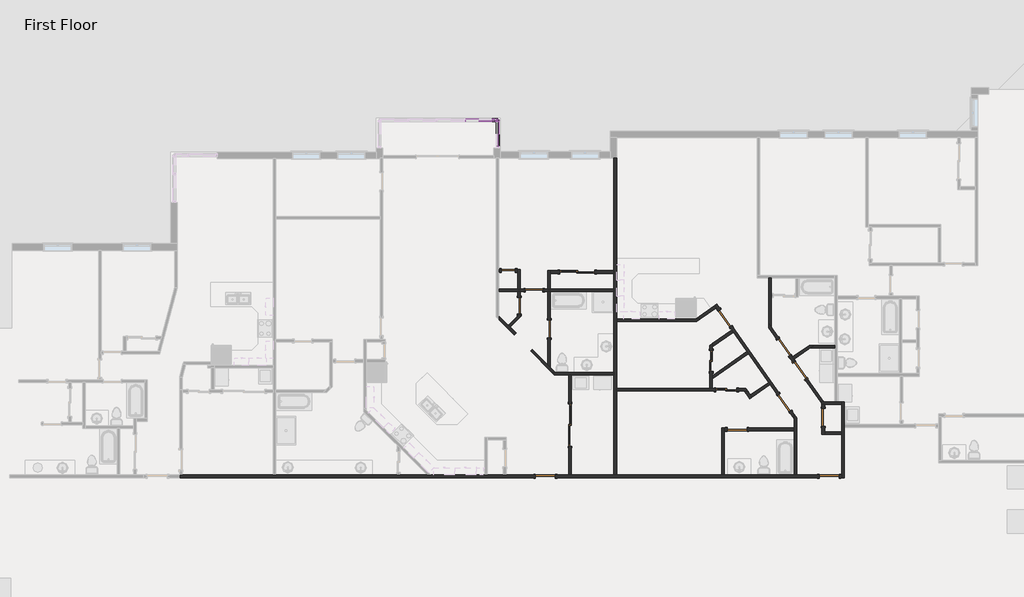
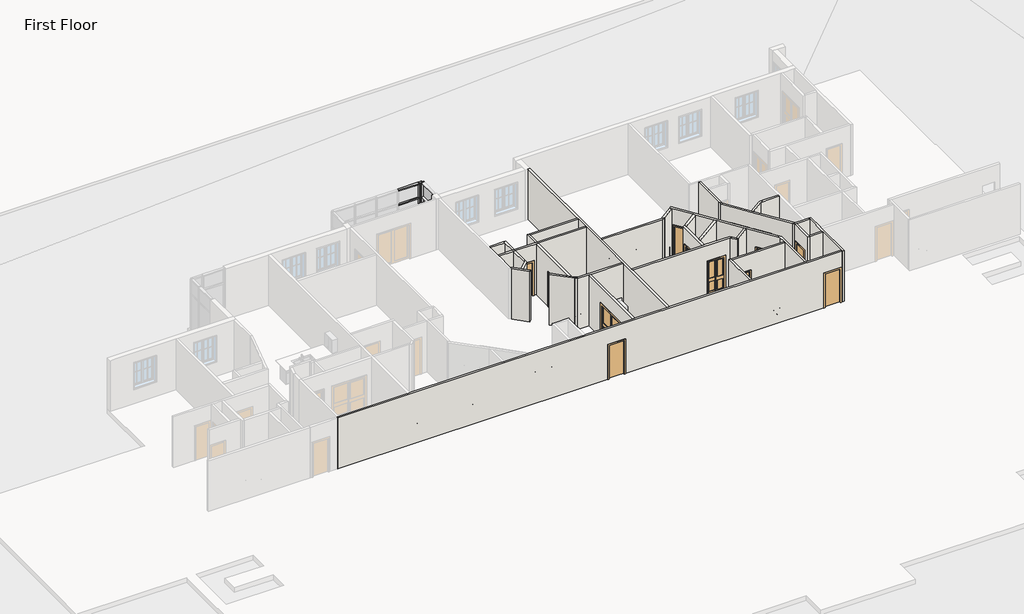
# One storey, part 10 of 17: 34 walls, 16 doors, 12 members, 2 plates.
"""IFC4 building model written with IfcOpenShell, lengths in millimetres."""

from ifc_helpers import new_model, si_unit, frame, origin, origin_with_axes, place, context, project, spatial, polyline, outline, extrude, faceted_brep, transform, mapped, element, save
from components import door_e2285e44, door_f2586ccf, door_d8f5dbb5, door_f2b275c1, door_825b8444, door_c29894e6, door_88c23cd7, door_2e7ec8be, door_caaf2a11, rectangular_mullion_rectangular_mullion_1_fa3625a1, rectangular_mullion_rectangular_mullion_1_a50b3cda, rectangular_mullion_rectangular_mullion_1_5cd4c5ac, rectangular_mullion_rectangular_mullion_1_7cbf0b94, rectangular_mullion_rectangular_mullion_1_6186cc23, rectangular_mullion_rectangular_mullion_1_049a2e78, rectangular_mullion_rectangular_mullion_1_273a15f2, rectangular_mullion_rectangular_mullion_1_e7cd13e6, rectangular_mullion_rectangular_mullion_1_4b421c8f, system_panel_glazed_53e3ec8b, system_panel_glazed_bdec29fe

model = new_model("IFC4")

# Units and contexts
model_context = context("Model", 3, world=origin())
ifc_project = project(units=[si_unit("LENGTHUNIT", "METRE", prefix="MILLI")], contexts=[model_context])

# Site, building, storey
site = spatial("IfcSite", under=ifc_project)
building = spatial("IfcBuilding", under=site)
storey = spatial("IfcBuildingStorey", under=building, Name="First Floor", Elevation=0.0)

# Doors
placement = place(None, origin())
door_shape = door_e2285e44(model_context)
element("IfcDoor", 1, ObjectType="Single-Flush : 24\" x 80\"", at=placement, inside=storey, context=model_context, shape_type="MappedRepresentation", body=[
    mapped(door_shape, transform((32134.1490863, 11206.8738431, 0.0), x_axis=(-1.0, 0.0, 0.0), y_axis=(0.0, -1.0, 0.0), z_axis=(0.0, 0.0, 1.0))),
])
door_2_shape = door_f2586ccf(model_context)
element("IfcDoor", 2, ObjectType="Single-Flush : 28\" x 80\"", at=placement, inside=storey, context=model_context, shape_type="MappedRepresentation", body=[
    mapped(door_2_shape, transform((32600.8503506, 9684.7566317, 0.0), x_axis=(0.0, -1.0, 0.0), y_axis=(1.0, 0.0, 0.0), z_axis=(0.0, 0.0, 1.0))),
])
door_3_shape = door_d8f5dbb5(model_context)
element("IfcDoor", 3, ObjectType="Single-Flush : 30\" x 80\"", at=placement, inside=storey, context=model_context, shape_type="MappedRepresentation", body=[
    mapped(door_3_shape, transform((45750.4941402, 4857.5393477, 0.0), x_axis=(0.0, 1.0, 0.0), y_axis=(-1.0, 0.0, 0.0), z_axis=(0.0, 0.0, 1.0))),
])
door_4_shape = door_f2b275c1(model_context)
element("IfcDoor", 4, ObjectType="Single-Flush : 30\" x 80\"", at=placement, inside=storey, context=model_context, shape_type="MappedRepresentation", body=[
    mapped(door_4_shape, transform((33248.5503506, 10357.9910099, 0.0), x_axis=(-1.0, 0.0, 0.0), y_axis=(0.0, -1.0, 0.0), z_axis=(0.0, 0.0, 1.0))),
])
element("IfcDoor", 5, ObjectType="Single-Flush : 30\" x 80\"", at=placement, inside=storey, context=model_context, shape_type="MappedRepresentation", body=[
    mapped(door_4_shape, transform((33896.2503506, 8681.5910099, 0.0), x_axis=(0.0, 1.0, 0.0), y_axis=(-1.0, 0.0, 0.0), z_axis=(0.0, 0.0, 1.0))),
])
door_5_shape = door_825b8444(model_context)
element("IfcDoor", 6, ObjectType="Single-Flush : 34\" x 80\"", at=placement, inside=storey, context=model_context, shape_type="MappedRepresentation", body=[
    mapped(door_5_shape, transform((44075.379577, 5485.5706082, 0.0), x_axis=(0.5735764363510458, -0.8191520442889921, 0.0), y_axis=(0.8191520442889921, 0.5735764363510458, 0.0), z_axis=(0.0, 0.0, 1.0))),
])
element("IfcDoor", 7, ObjectType="Single-Flush : 34\" x 80\"", at=placement, inside=storey, context=model_context, shape_type="MappedRepresentation", body=[
    mapped(door_5_shape, transform((44748.5781815, 6887.1795824, 0.0), x_axis=(-0.5735764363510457, 0.819152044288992, 0.0), y_axis=(-0.819152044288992, -0.5735764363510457, 0.0), z_axis=(0.0, 0.0, 1.0))),
])
door_6_shape = door_c29894e6(model_context)
element("IfcDoor", 8, ObjectType="Single-Flush : 34\" x 80\"", at=placement, inside=storey, context=model_context, shape_type="MappedRepresentation", body=[
    mapped(door_6_shape, transform((46002.0126872, 2302.2091714, 0.0), x_axis=(1.0, 0.0, 0.0), y_axis=(0.0, 1.0, 0.0), z_axis=(0.0, 0.0, 1.0))),
])
element("IfcDoor", 9, ObjectType="Single-Flush : 34\" x 80\"", at=placement, inside=storey, context=model_context, shape_type="MappedRepresentation", body=[
    mapped(door_6_shape, transform((42028.0852525, 4334.2091714, 0.0), x_axis=(-1.0, 0.0, 0.0), y_axis=(0.0, -1.0, 0.0), z_axis=(0.0, 0.0, 1.0))),
])
element("IfcDoor", 10, ObjectType="Single-Flush : 34\" x 80\"", at=placement, inside=storey, context=model_context, shape_type="MappedRepresentation", body=[
    mapped(door_6_shape, transform((41510.2711658, 9148.9250727, 0.0), x_axis=(-0.5735764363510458, 0.8191520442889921, 0.0), y_axis=(-0.8191520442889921, -0.5735764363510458, 0.0), z_axis=(0.0, 0.0, 1.0))),
])
element("IfcDoor", 11, ObjectType="Single-Flush : 34\" x 80\"", at=placement, inside=storey, context=model_context, shape_type="MappedRepresentation", body=[
    mapped(door_6_shape, transform((44049.2737903, 7885.8897548, 0.0), x_axis=(0.5735764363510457, -0.819152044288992, 0.0), y_axis=(0.819152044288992, 0.5735764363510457, 0.0), z_axis=(0.0, 0.0, 1.0))),
])
element("IfcDoor", 12, ObjectType="Single-Flush : 34\" x 80\"", at=placement, inside=storey, context=model_context, shape_type="MappedRepresentation", body=[
    mapped(door_6_shape, transform((33733.8246645, 2302.2091714, 0.0), x_axis=(1.0, 0.0, 0.0), y_axis=(0.0, 1.0, 0.0), z_axis=(0.0, 0.0, 1.0))),
])
door_7_shape = door_88c23cd7(model_context)
element("IfcDoor", 13, ObjectType="Sliding-Closet : 36\" x 80\"", at=placement, inside=storey, context=model_context, shape_type="MappedRepresentation", body=[
    mapped(door_7_shape, transform((41029.9347694, 7292.860079, 0.0), x_axis=(0.0, 1.0, 0.0), y_axis=(-1.0, 0.0, 0.0), z_axis=(0.0, 0.0, 1.0))),
])
element("IfcDoor", 14, ObjectType="Sliding-Closet : 36\" x 80\"", at=placement, inside=storey, context=model_context, shape_type="MappedRepresentation", body=[
    mapped(door_7_shape, transform((41563.3347694, 5921.260079, 0.0), x_axis=(1.0, 0.0, 0.0), y_axis=(0.0, 1.0, 0.0), z_axis=(0.0, 0.0, 1.0))),
])
door_8_shape = door_2e7ec8be(model_context)
element("IfcDoor", 15, ObjectType="Sliding-Closet : 60\" x 80\"", at=placement, inside=storey, context=model_context, shape_type="MappedRepresentation", body=[
    mapped(door_8_shape, transform((35115.4503506, 11022.7238431, 0.0), x_axis=(1.0, 0.0, 0.0), y_axis=(0.0, 1.0, 0.0), z_axis=(0.0, 0.0, 1.0))),
])
door_9_shape = door_caaf2a11(model_context)
element("IfcDoor", 16, ObjectType="Sliding-Closet : 72\" x 80\"", at=placement, inside=storey, context=model_context, shape_type="MappedRepresentation", body=[
    mapped(door_9_shape, transform((34927.6246645, 4525.6075569, 0.0), x_axis=(0.0, 1.0, 0.0), y_axis=(-1.0, 0.0, 0.0), z_axis=(0.0, 0.0, 1.0))),
])

# Members
rectangular_mullion_rectangular_mullion_1_shape = rectangular_mullion_rectangular_mullion_1_fa3625a1(model_context)
element("IfcMember", 17, ObjectType="Rectangular Mullion : Rectangular Mullion 1", at=placement, inside=storey, context=model_context, shape_type="MappedRepresentation", body=[
    mapped(rectangular_mullion_rectangular_mullion_1_shape, transform((31438.5198574, 17730.4791823, 3048.0), x_axis=(0.0, 0.0, 1.0), y_axis=(0.0, -1.0, 0.0), z_axis=(1.0, 0.0, 0.0))),
])
rectangular_mullion_rectangular_mullion_1_2_shape = rectangular_mullion_rectangular_mullion_1_a50b3cda(model_context)
element("IfcMember", 18, ObjectType="Rectangular Mullion : Rectangular Mullion 1", at=placement, inside=storey, context=model_context, shape_type="MappedRepresentation", body=[
    mapped(rectangular_mullion_rectangular_mullion_1_2_shape, transform((31667.447822, 17730.4791823, 0.0), x_axis=(1.0, 0.0, 0.0), y_axis=(0.0, -1.0, 0.0), z_axis=(0.0, 0.0, -1.0))),
])
rectangular_mullion_rectangular_mullion_1_3_shape = rectangular_mullion_rectangular_mullion_1_5cd4c5ac(model_context)
element("IfcMember", 19, ObjectType="Rectangular Mullion : Rectangular Mullion 1", at=placement, inside=storey, context=model_context, shape_type="MappedRepresentation", body=[
    mapped(rectangular_mullion_rectangular_mullion_1_3_shape, transform((31667.447822, 17730.4791823, 2165.35), x_axis=(1.0, 0.0, 0.0), y_axis=(0.0, -1.0, 0.0), z_axis=(0.0, 0.0, -1.0))),
])
element("IfcMember", 20, ObjectType="Rectangular Mullion : Rectangular Mullion 1", at=placement, inside=storey, context=model_context, shape_type="MappedRepresentation", body=[
    mapped(rectangular_mullion_rectangular_mullion_1_3_shape, transform((31667.447822, 17730.4791823, 3048.0), x_axis=(0.0, 1.0, 0.0), y_axis=(-1.0, 0.0, 0.0), z_axis=(0.0, 0.0, 1.0))),
])
element("IfcMember", 21, ObjectType="Rectangular Mullion : Rectangular Mullion 1", at=placement, inside=storey, context=model_context, shape_type="MappedRepresentation", body=[
    mapped(rectangular_mullion_rectangular_mullion_1_2_shape, transform((31667.447822, 17730.4791823, 2165.35), x_axis=(0.0, 1.0, 0.0), y_axis=(-1.0, 0.0, 0.0), z_axis=(0.0, 0.0, 1.0))),
])
rectangular_mullion_rectangular_mullion_1_4_shape = rectangular_mullion_rectangular_mullion_1_7cbf0b94(model_context)
element("IfcMember", 22, ObjectType="Rectangular Mullion : Rectangular Mullion 1", at=placement, inside=storey, context=model_context, shape_type="MappedRepresentation", body=[
    mapped(rectangular_mullion_rectangular_mullion_1_4_shape, transform((31438.5198574, 17730.4791823, 2165.35), x_axis=(0.0, 0.0, 1.0), y_axis=(0.0, -1.0, 0.0), z_axis=(1.0, 0.0, 0.0))),
])
rectangular_mullion_rectangular_mullion_1_5_shape = rectangular_mullion_rectangular_mullion_1_6186cc23(model_context)
element("IfcMember", 23, ObjectType="Rectangular Mullion : Rectangular Mullion 1", at=placement, inside=storey, context=model_context, shape_type="MappedRepresentation", body=[
    mapped(rectangular_mullion_rectangular_mullion_1_5_shape, transform((31470.2698574, 17730.4791823, 0.0), x_axis=(1.0, 0.0, 0.0), y_axis=(0.0, -1.0, 0.0), z_axis=(0.0, 0.0, -1.0))),
])
rectangular_mullion_rectangular_mullion_1_6_shape = rectangular_mullion_rectangular_mullion_1_049a2e78(model_context)
element("IfcMember", 24, ObjectType="Rectangular Mullion : Rectangular Mullion 1", at=placement, inside=storey, context=model_context, shape_type="MappedRepresentation", body=[
    mapped(rectangular_mullion_rectangular_mullion_1_6_shape, transform((31470.2698574, 17730.4791823, 2165.35), x_axis=(1.0, 0.0, 0.0), y_axis=(0.0, -1.0, 0.0), z_axis=(0.0, 0.0, -1.0))),
])
rectangular_mullion_rectangular_mullion_1_7_shape = rectangular_mullion_rectangular_mullion_1_273a15f2(model_context)
element("IfcMember", 25, ObjectType="Rectangular Mullion : Rectangular Mullion 1", at=placement, inside=storey, context=model_context, shape_type="MappedRepresentation", body=[
    mapped(rectangular_mullion_rectangular_mullion_1_7_shape, transform((31667.447822, 17666.9791823, 0.0), x_axis=(0.0, 0.0, -1.0), y_axis=(-1.0, 0.0, 0.0), z_axis=(0.0, 1.0, 0.0))),
])
rectangular_mullion_rectangular_mullion_1_8_shape = rectangular_mullion_rectangular_mullion_1_e7cd13e6(model_context)
element("IfcMember", 26, ObjectType="Rectangular Mullion : Rectangular Mullion 1", at=placement, inside=storey, context=model_context, shape_type="MappedRepresentation", body=[
    mapped(rectangular_mullion_rectangular_mullion_1_8_shape, transform((31603.947822, 17730.4791823, 3048.0), x_axis=(0.0, 0.0, 1.0), y_axis=(0.0, -1.0, 0.0), z_axis=(1.0, 0.0, 0.0))),
])
element("IfcMember", 27, ObjectType="Rectangular Mullion : Rectangular Mullion 1", at=placement, inside=storey, context=model_context, shape_type="MappedRepresentation", body=[
    mapped(rectangular_mullion_rectangular_mullion_1_8_shape, transform((31502.0198574, 17730.4791823, 0.0), x_axis=(0.0, 0.0, -1.0), y_axis=(0.0, -1.0, 0.0), z_axis=(-1.0, 0.0, 0.0))),
])
rectangular_mullion_rectangular_mullion_1_9_shape = rectangular_mullion_rectangular_mullion_1_4b421c8f(model_context)
element("IfcMember", 28, ObjectType="Rectangular Mullion : Rectangular Mullion 1", at=placement, inside=storey, context=model_context, shape_type="MappedRepresentation", body=[
    mapped(rectangular_mullion_rectangular_mullion_1_9_shape, transform((31603.947822, 17730.4791823, 2165.35), x_axis=(0.0, 0.0, 1.0), y_axis=(0.0, -1.0, 0.0), z_axis=(1.0, 0.0, 0.0))),
])

# Plates
system_panel_glazed_shape = system_panel_glazed_53e3ec8b(model_context)
element("IfcPlate", 29, ObjectType="System Panel : Glazed", at=placement, inside=storey, context=model_context, shape_type="MappedRepresentation", body=[
    mapped(system_panel_glazed_shape, transform((31667.447822, 17120.8791823, 63.5), x_axis=(0.0, -1.0, 0.0), y_axis=(1.0, 0.0, 0.0), z_axis=(0.0, 0.0, 1.0))),
])
system_panel_glazed_2_shape = system_panel_glazed_bdec29fe(model_context)
element("IfcPlate", 30, ObjectType="System Panel : Glazed", at=placement, inside=storey, context=model_context, shape_type="MappedRepresentation", body=[
    mapped(system_panel_glazed_2_shape, transform((31667.447822, 17120.8791823, 2197.1), x_axis=(0.0, -1.0, 0.0), y_axis=(1.0, 0.0, 0.0), z_axis=(0.0, 0.0, 1.0))),
])

# Walls
element("IfcWall", 31, ObjectType="Interior - 4 1/2\" Partition", at=placement, inside=storey, context=model_context, shape_type="Brep", body=[
    faceted_brep([(46668.7626872, 2245.0591714, 0.0), (46668.7626872, 4430.1886142, 0.0), (46668.7626872, 4544.4886142, 0.0), (46668.7626872, 5524.2893477, 0.0), (46668.7626872, 5524.2893477, 3048.0), (46668.7626872, 4544.4886142, 3048.0), (46668.7626872, 4430.1886142, 3048.0), (46668.7626872, 2245.0591714, 3048.0), (46554.4626872, 2245.0591714, 0.0), (46554.4626872, 2245.0591714, 3048.0), (46554.4626872, 2359.3591714, 3048.0), (46554.4626872, 4124.6591714, 3048.0), (46554.4626872, 4238.9591714, 3048.0), (46554.4626872, 5409.9893477, 3048.0), (46554.4626872, 5524.2893477, 3048.0), (46554.4626872, 5524.2893477, 0.0), (46554.4626872, 5409.9893477, 0.0), (46554.4626872, 4238.9591714, 0.0), (46554.4626872, 4124.6591714, 0.0), (46554.4626872, 2359.3591714, 0.0)], [[[0, 1, 2, 3, 4, 5, 6, 7]], [[8, 9, 10, 11, 12, 13, 14, 15, 16, 17, 18, 19]], [[3, 2, 1, 0, 8, 19, 18, 17, 16, 15]], [[7, 6, 5, 4, 14, 13, 12, 11, 10, 9]], [[0, 7, 9, 8]], [[4, 3, 15, 14]]]),
])
element("IfcWall", 32, ObjectType="Interior - 4 1/2\" Partition", at=placement, inside=storey, context=model_context, shape_type="Brep", body=[
    faceted_brep([(46554.4626872, 5524.2893477, 0.0), (46352.4352525, 5524.2893477, 0.0), (46238.1352525, 5524.2893477, 0.0), (45772.6514653, 5524.2893477, 0.0), (45633.1169298, 5524.2893477, 0.0), (45633.1169298, 5524.2893477, 3048.0), (45772.6514653, 5524.2893477, 3048.0), (46238.1352525, 5524.2893477, 3048.0), (46352.4352525, 5524.2893477, 3048.0), (46554.4626872, 5524.2893477, 3048.0), (46554.4626872, 5409.9893477, 0.0), (46554.4626872, 5409.9893477, 3048.0), (45807.6441402, 5409.9893477, 3048.0), (45713.1506514, 5409.9893477, 3048.0), (45713.1506514, 5409.9893477, 0.0), (45807.6441402, 5409.9893477, 0.0), (45693.3441402, 5438.2759773, 0.0), (45693.3441402, 5438.2759773, 3048.0)], [[[0, 1, 2, 3, 4, 5, 6, 7, 8, 9]], [[10, 11, 12, 13, 14, 15]], [[4, 3, 2, 1, 0, 10, 15, 14, 16]], [[9, 8, 7, 6, 5, 17, 13, 12, 11]], [[5, 4, 16, 14, 13, 17]], [[0, 9, 11, 10]]]),
])
element("IfcWall", 33, ObjectType="Interior - 4 1/2\" Partition", at=placement, inside=storey, context=model_context, shape_type="Brep", body=[
    faceted_brep([(45570.2126872, 2359.3591714, 0.0), (44606.2949591, 2359.3591714, 0.0), (44491.9949591, 2359.3591714, 0.0), (41475.6352525, 2359.3591714, 0.0), (41361.3352525, 2359.3591714, 0.0), (36816.4178001, 2359.3591714, 0.0), (36702.1178001, 2359.3591714, 0.0), (34857.7746645, 2359.3591714, 0.0), (34743.4746645, 2359.3591714, 0.0), (34165.6246645, 2359.3591714, 0.0), (34165.6246645, 2359.3591714, 2032.0), (33302.0246645, 2359.3591714, 2032.0), (33302.0246645, 2359.3591714, 0.0), (32034.1576897, 2359.3591714, 0.0), (31919.8576897, 2359.3591714, 0.0), (31221.3576897, 2359.3591714, 0.0), (31107.0576897, 2359.3591714, 0.0), (28783.4392197, 2359.3591714, 0.0), (28621.7946095, 2359.3591714, 0.0), (27441.30388, 2359.3591714, 0.0), (27327.00388, 2359.3591714, 0.0), (22080.2073571, 2359.3591714, 0.0), (21965.9073571, 2359.3591714, 0.0), (18027.8493195, 2359.3591714, 0.0), (17913.5493195, 2359.3591714, 0.0), (17913.5493195, 2359.3591714, 3048.0), (18027.8493195, 2359.3591714, 3048.0), (21965.9073571, 2359.3591714, 3048.0), (22080.2073571, 2359.3591714, 3048.0), (27327.00388, 2359.3591714, 3048.0), (27441.30388, 2359.3591714, 3048.0), (28621.7946095, 2359.3591714, 3048.0), (28783.4392197, 2359.3591714, 3048.0), (31107.0576897, 2359.3591714, 3048.0), (31221.3576897, 2359.3591714, 3048.0), (31919.8576897, 2359.3591714, 3048.0), (32034.1576897, 2359.3591714, 3048.0), (34743.4746645, 2359.3591714, 3048.0), (34857.7746645, 2359.3591714, 3048.0), (36702.1178001, 2359.3591714, 3048.0), (36816.4178001, 2359.3591714, 3048.0), (41361.3352525, 2359.3591714, 3048.0), (41475.6352525, 2359.3591714, 3048.0), (44491.9949591, 2359.3591714, 3048.0), (44606.2949591, 2359.3591714, 3048.0), (46554.4626872, 2359.3591714, 3048.0), (46554.4626872, 2359.3591714, 0.0), (46433.8126872, 2359.3591714, 0.0), (46433.8126872, 2359.3591714, 2032.0), (45570.2126872, 2359.3591714, 2032.0), (34165.6246645, 2245.0591714, 2032.0), (34165.6246645, 2245.0591714, 0.0), (45570.2126872, 2245.0591714, 0.0), (45570.2126872, 2245.0591714, 2032.0), (46433.8126872, 2245.0591714, 2032.0), (46433.8126872, 2245.0591714, 0.0), (46554.4626872, 2245.0591714, 0.0), (46554.4626872, 2245.0591714, 3048.0), (17913.5493195, 2245.0591714, 3048.0), (17913.5493195, 2245.0591714, 0.0), (33302.0246645, 2245.0591714, 0.0), (33302.0246645, 2245.0591714, 2032.0)], [[[0, 1, 2, 3, 4, 5, 6, 7, 8, 9, 10, 11, 12, 13, 14, 15, 16, 17, 18, 19, 20, 21, 22, 23, 24, 25, 26, 27, 28, 29, 30, 31, 32, 33, 34, 35, 36, 37, 38, 39, 40, 41, 42, 43, 44, 45, 46, 47, 48, 49]], [[50, 51, 52, 53, 54, 55, 56, 57, 58, 59, 60, 61]], [[56, 55, 47, 46]], [[60, 59, 24, 23, 22, 21, 20, 19, 18, 17, 16, 15, 14, 13, 12]], [[52, 51, 9, 8, 7, 6, 5, 4, 3, 2, 1, 0]], [[45, 44, 43, 42, 41, 40, 39, 38, 37, 36, 35, 34, 33, 32, 31, 30, 29, 28, 27, 26, 25, 58, 57]], [[48, 47, 55, 54]], [[49, 48, 54, 53]], [[0, 49, 53, 52]], [[10, 9, 51, 50]], [[11, 10, 50, 61]], [[12, 11, 61, 60]], [[25, 24, 59, 58]], [[46, 45, 57, 56]]]),
])
element("IfcWall", 34, ObjectType="Interior - 4 1/2\" Partition", at=placement, inside=storey, context=model_context, shape_type="Brep", body=[
    faceted_brep([(36816.4178001, 2359.3591714, 0.0), (36816.4178001, 5991.110079, 0.0), (36816.4178001, 6105.410079, 0.0), (36816.4178001, 9005.4410099, 0.0), (36816.4178001, 9119.7410099, 0.0), (36816.4178001, 16077.0865339, 0.0), (36816.4178001, 16077.0865339, 3048.0), (36816.4178001, 9119.7410099, 3048.0), (36816.4178001, 9005.4410099, 3048.0), (36816.4178001, 6105.410079, 3048.0), (36816.4178001, 5991.110079, 3048.0), (36816.4178001, 2359.3591714, 3048.0), (36702.1178001, 2359.3591714, 0.0), (36702.1178001, 2359.3591714, 3048.0), (36702.1178001, 6691.8559423, 3048.0), (36702.1178001, 6806.1559423, 3048.0), (36702.1178001, 10300.8410099, 3048.0), (36702.1178001, 10415.1410099, 3048.0), (36702.1178001, 11092.5738431, 3048.0), (36702.1178001, 11206.8738431, 3048.0), (36702.1178001, 16077.0865339, 3048.0), (36702.1178001, 16077.0865339, 0.0), (36702.1178001, 11206.8738431, 0.0), (36702.1178001, 11092.5738431, 0.0), (36702.1178001, 10415.1410099, 0.0), (36702.1178001, 10300.8410099, 0.0), (36702.1178001, 6806.1559423, 0.0), (36702.1178001, 6691.8559423, 0.0)], [[[0, 1, 2, 3, 4, 5, 6, 7, 8, 9, 10, 11]], [[12, 13, 14, 15, 16, 17, 18, 19, 20, 21, 22, 23, 24, 25, 26, 27]], [[5, 4, 3, 2, 1, 0, 12, 27, 26, 25, 24, 23, 22, 21]], [[11, 10, 9, 8, 7, 6, 20, 19, 18, 17, 16, 15, 14, 13]], [[0, 11, 13, 12]], [[6, 5, 21, 20]]]),
])
element("IfcWall", 35, ObjectType="Interior - 4 1/2\" Partition", at=placement, inside=storey, context=model_context, shape_type="Brep", body=[
    faceted_brep([(41475.6352525, 2359.3591714, 0.0), (41475.6352525, 4277.0591714, 0.0), (41475.6352525, 4391.3591714, 0.0), (41475.6352525, 4391.3591714, 3048.0), (41475.6352525, 4277.0591714, 3048.0), (41475.6352525, 2359.3591714, 3048.0), (41361.3352525, 2359.3591714, 0.0), (41361.3352525, 2359.3591714, 3048.0), (41361.3352525, 4391.3591714, 3048.0), (41361.3352525, 4391.3591714, 0.0)], [[[0, 1, 2, 3, 4, 5]], [[6, 7, 8, 9]], [[2, 1, 0, 6, 9]], [[5, 4, 3, 8, 7]], [[3, 2, 9, 8]], [[0, 5, 7, 6]]]),
])
element("IfcWall", 36, ObjectType="Interior - 4 1/2\" Partition", at=placement, inside=storey, context=model_context, shape_type="SweptSolid", body=[
    extrude(outline(polyline([(0.0, 41475.6352525), (0.0, 41596.2852525), (2032.0, 41596.2852525), (2032.0, 42459.8852525), (0.0, 42459.8852525), (0.0, 44491.9949591), (3048.0, 44491.9949591), (3048.0, 41475.6352525), (0.0, 41475.6352525)])), frame((0.0, 4277.0591714, 0.0), z_axis=(0.0, 1.0, 0.0), x_axis=(0.0, 0.0, 1.0)), (0.0, 0.0, 1.0), 114.3),
])
element("IfcWall", 37, ObjectType="Interior - 4 1/2\" Partition", at=placement, inside=storey, context=model_context, shape_type="Brep", body=[
    faceted_brep([(44491.9949591, 4990.220165, 0.0), (44491.9949591, 4790.9441963, 0.0), (44491.9949591, 4391.3591714, 0.0), (44491.9949591, 4277.0591714, 0.0), (44491.9949591, 2359.3591714, 0.0), (44491.9949591, 2359.3591714, 3048.0), (44491.9949591, 4277.0591714, 3048.0), (44491.9949591, 4391.3591714, 3048.0), (44491.9949591, 4790.9441963, 3048.0), (44491.9949591, 4990.220165, 3048.0), (44606.2949591, 4826.9828478, 0.0), (44606.2949591, 4826.9828478, 3048.0), (44606.2949591, 2359.3591714, 3048.0), (44606.2949591, 2359.3591714, 0.0)], [[[0, 1, 2, 3, 4, 5, 6, 7, 8, 9]], [[10, 11, 12, 13]], [[4, 3, 2, 1, 0, 10, 13]], [[9, 8, 7, 6, 5, 12, 11]], [[0, 9, 11, 10]], [[5, 4, 13, 12]]]),
])
element("IfcWall", 38, ObjectType="Interior - 4 1/2\" Partition", at=placement, inside=storey, context=model_context, shape_type="Brep", body=[
    faceted_brep([(42020.5347694, 5991.110079, 2032.0), (42020.5347694, 5991.110079, 0.0), (42342.9173932, 5991.110079, 0.0), (42482.4519287, 5991.110079, 0.0), (42482.4519287, 5991.110079, 3048.0), (42342.9173932, 5991.110079, 3048.0), (36816.4178001, 5991.110079, 3048.0), (36816.4178001, 5991.110079, 0.0), (41106.1347694, 5991.110079, 0.0), (41106.1347694, 5991.110079, 2032.0), (42402.4182071, 6105.410079, 0.0), (42020.5347694, 6105.410079, 0.0), (42020.5347694, 6105.410079, 2032.0), (41106.1347694, 6105.410079, 2032.0), (41106.1347694, 6105.410079, 0.0), (40960.0847694, 6105.410079, 0.0), (40845.7847694, 6105.410079, 0.0), (36816.4178001, 6105.410079, 0.0), (36816.4178001, 6105.410079, 3048.0), (40845.7847694, 6105.410079, 3048.0), (40960.0847694, 6105.410079, 3048.0), (42402.4182071, 6105.410079, 3048.0)], [[[0, 1, 2, 3, 4, 5, 6, 7, 8, 9]], [[10, 11, 12, 13, 14, 15, 16, 17, 18, 19, 20, 21]], [[8, 7, 17, 16, 15, 14]], [[3, 2, 1, 11, 10]], [[6, 5, 4, 21, 20, 19, 18]], [[14, 13, 9, 8]], [[12, 11, 1, 0]], [[13, 12, 0, 9]], [[4, 3, 10, 21]], [[7, 6, 18, 17]]]),
])
element("IfcWall", 39, ObjectType="Interior - 4 1/2\" Partition", at=placement, inside=storey, context=model_context, shape_type="Brep", body=[
    faceted_brep([(42342.9173932, 5991.110079, 0.0), (42571.294409, 5664.953899, 0.0), (42571.294409, 5664.953899, 3048.0), (42342.9173932, 5991.110079, 3048.0), (42482.4519287, 5991.110079, 0.0), (42482.4519287, 5991.110079, 3048.0), (42599.363701, 5824.1427644, 3048.0), (42664.9234877, 5730.5136857, 3048.0), (42664.9234877, 5730.5136857, 0.0), (42599.363701, 5824.1427644, 0.0)], [[[0, 1, 2, 3]], [[4, 5, 6, 7, 8, 9]], [[1, 0, 4, 9, 8]], [[3, 2, 7, 6, 5]], [[2, 1, 8, 7]], [[0, 3, 5, 4]]]),
])
element("IfcWall", 40, ObjectType="Interior - 4 1/2\" Partition", at=placement, inside=storey, context=model_context, shape_type="SweptSolid", body=[
    extrude(outline(polyline([(43449.4535887, 6279.8475763), (42664.9234877, 5730.5136857), (42599.363701, 5824.1427644), (43383.893802, 6373.476655), (43449.4535887, 6279.8475763)])), origin_with_axes(), (0.0, 0.0, 1.0), 3048.0),
])
element("IfcWall", 41, ObjectType="Interior - 4 1/2\" Partition", at=placement, inside=storey, context=model_context, shape_type="Brep", body=[
    faceted_brep([(41309.4153999, 9535.4148188, 2032.0), (41309.4153999, 9535.4148188, 0.0), (41154.070698, 9757.2700452, 0.0), (41154.070698, 9757.2700452, 3048.0), (44491.9949591, 4990.220165, 3048.0), (44491.9949591, 4990.220165, 0.0), (44369.8644215, 5164.6406488, 0.0), (44369.8644215, 5164.6406488, 2032.0), (43874.5238111, 5872.0603542, 2032.0), (43874.5238111, 5872.0603542, 0.0), (41804.7560103, 8827.9951134, 0.0), (41804.7560103, 8827.9951134, 2032.0), (41060.4416193, 9691.7102585, 0.0), (41126.001406, 9598.0811798, 0.0), (41215.7863212, 9469.8550321, 0.0), (41215.7863212, 9469.8550321, 2032.0), (41711.1269316, 8762.4353267, 2032.0), (41711.1269316, 8762.4353267, 0.0), (41800.9118469, 8634.209179, 0.0), (41866.4716335, 8540.5801003, 0.0), (42452.1089123, 7704.203388, 0.0), (42517.668699, 7610.5743093, 0.0), (43383.893802, 6373.476655, 0.0), (43449.4535887, 6279.8475763, 0.0), (43780.8947324, 5806.5005676, 0.0), (43780.8947324, 5806.5005676, 2032.0), (44276.2353429, 5099.0808621, 2032.0), (44276.2353429, 5099.0808621, 0.0), (44491.9949591, 4790.9441963, 0.0), (44491.9949591, 4790.9441963, 3048.0), (43449.4535887, 6279.8475763, 3048.0), (43383.893802, 6373.476655, 3048.0), (42517.668699, 7610.5743093, 3048.0), (42452.1089123, 7704.203388, 3048.0), (41866.4716335, 8540.5801003, 3048.0), (41800.9118469, 8634.209179, 3048.0), (41126.001406, 9598.0811798, 3048.0), (41060.4416193, 9691.7102585, 3048.0)], [[[0, 1, 2, 3, 4, 5, 6, 7, 8, 9, 10, 11]], [[12, 13, 14, 15, 16, 17, 18, 19, 20, 21, 22, 23, 24, 25, 26, 27, 28, 29, 30, 31, 32, 33, 34, 35, 36, 37]], [[28, 27, 6, 5]], [[10, 9, 24, 23, 22, 21, 20, 19, 18, 17]], [[2, 1, 14, 13, 12]], [[4, 3, 37, 36, 35, 34, 33, 32, 31, 30, 29]], [[7, 6, 27, 26]], [[8, 7, 26, 25]], [[9, 8, 25, 24]], [[15, 14, 1, 0]], [[16, 15, 0, 11]], [[17, 16, 11, 10]], [[3, 2, 12, 37]], [[5, 4, 29, 28]]]),
])
element("IfcWall", 42, ObjectType="Interior - 4 1/2\" Partition", at=placement, inside=storey, context=model_context, shape_type="SweptSolid", body=[
    extrude(outline(polyline([(40960.0847694, 6659.476836), (42452.1089123, 7704.203388), (42517.668699, 7610.5743093), (40960.0847694, 6519.9423005), (40960.0847694, 6659.476836)])), origin_with_axes(), (0.0, 0.0, 1.0), 3048.0),
])
element("IfcWall", 43, ObjectType="Interior - 4 1/2\" Partition", at=placement, inside=storey, context=model_context, shape_type="Brep", body=[
    faceted_brep([(40960.0847694, 7750.060079, 2032.0), (40960.0847694, 7750.060079, 0.0), (40960.0847694, 7905.9211855, 0.0), (40960.0847694, 8045.455721, 0.0), (40960.0847694, 8045.455721, 3048.0), (40960.0847694, 7905.9211855, 3048.0), (40960.0847694, 6659.476836, 3048.0), (40960.0847694, 6519.9423005, 3048.0), (40960.0847694, 6105.410079, 3048.0), (40960.0847694, 6105.410079, 0.0), (40960.0847694, 6519.9423005, 0.0), (40960.0847694, 6659.476836, 0.0), (40960.0847694, 6835.660079, 0.0), (40960.0847694, 6835.660079, 2032.0), (40845.7847694, 7965.4219994, 0.0), (40845.7847694, 7750.060079, 0.0), (40845.7847694, 7750.060079, 2032.0), (40845.7847694, 6835.660079, 2032.0), (40845.7847694, 6835.660079, 0.0), (40845.7847694, 6105.410079, 0.0), (40845.7847694, 6105.410079, 3048.0), (40845.7847694, 7965.4219994, 3048.0)], [[[0, 1, 2, 3, 4, 5, 6, 7, 8, 9, 10, 11, 12, 13]], [[14, 15, 16, 17, 18, 19, 20, 21]], [[12, 11, 10, 9, 19, 18]], [[3, 2, 1, 15, 14]], [[8, 7, 6, 5, 4, 21, 20]], [[18, 17, 13, 12]], [[16, 15, 1, 0]], [[17, 16, 0, 13]], [[4, 3, 14, 21]], [[9, 8, 20, 19]]]),
])
element("IfcWall", 44, ObjectType="Interior - 4 1/2\" Partition", at=placement, inside=storey, context=model_context, shape_type="SweptSolid", body=[
    extrude(outline(polyline([(41866.4716335, 8540.5801003), (40960.0847694, 7905.9211855), (40960.0847694, 8045.455721), (41800.9118469, 8634.209179), (41866.4716335, 8540.5801003)])), origin_with_axes(), (0.0, 0.0, 1.0), 3048.0),
])
element("IfcWall", 45, ObjectType="Interior - 4 1/2\" Partition", at=placement, inside=storey, context=model_context, shape_type="SweptSolid", body=[
    extrude(outline(polyline([(45807.6441402, 4238.9591714), (46554.4626872, 4238.9591714), (46554.4626872, 4124.6591714), (45807.6441402, 4124.6591714), (45807.6441402, 4238.9591714)])), origin_with_axes(), (0.0, 0.0, 1.0), 3048.0),
])
element("IfcWall", 46, ObjectType="Interior - 4 1/2\" Partition", at=placement, inside=storey, context=model_context, shape_type="Brep", body=[
    faceted_brep([(45807.6441402, 5238.5393477, 2032.0), (45807.6441402, 5238.5393477, 0.0), (45807.6441402, 5409.9893477, 0.0), (45807.6441402, 5409.9893477, 3048.0), (45807.6441402, 4238.9591714, 3048.0), (45807.6441402, 4124.6591714, 3048.0), (45807.6441402, 4124.6591714, 0.0), (45807.6441402, 4238.9591714, 0.0), (45807.6441402, 4476.5393477, 0.0), (45807.6441402, 4476.5393477, 2032.0), (45693.3441402, 5438.2759773, 0.0), (45693.3441402, 5238.5393477, 0.0), (45693.3441402, 5238.5393477, 2032.0), (45693.3441402, 4476.5393477, 2032.0), (45693.3441402, 4476.5393477, 0.0), (45693.3441402, 4124.6591714, 0.0), (45693.3441402, 4124.6591714, 3048.0), (45693.3441402, 5438.2759773, 3048.0), (45713.1506514, 5409.9893477, 0.0), (45713.1506514, 5409.9893477, 3048.0)], [[[0, 1, 2, 3, 4, 5, 6, 7, 8, 9]], [[10, 11, 12, 13, 14, 15, 16, 17]], [[2, 1, 11, 10, 18]], [[8, 7, 6, 15, 14]], [[5, 4, 3, 19, 17, 16]], [[12, 11, 1, 0]], [[13, 12, 0, 9]], [[14, 13, 9, 8]], [[6, 5, 16, 15]], [[3, 2, 18, 19]], [[18, 10, 17, 19]]]),
])
element("IfcWall", 47, ObjectType="Interior - 4 1/2\" Partition", at=placement, inside=storey, context=model_context, shape_type="Brep", body=[
    faceted_brep([(44547.7224156, 7273.6693285, 2032.0), (44547.7224156, 7273.6693285, 0.0), (44478.5204186, 7372.5000226, 0.0), (44412.9606319, 7466.1291013, 0.0), (44343.7586349, 7564.9597954, 0.0), (44343.7586349, 7564.9597954, 2032.0), (43848.4180244, 8272.3795009, 2032.0), (43848.4180244, 8272.3795009, 0.0), (43512.0398807, 8752.7772764, 0.0), (43397.7398807, 8916.0145936, 0.0), (43397.7398807, 8916.0145936, 3048.0), (43512.0398807, 8752.7772764, 3048.0), (44412.9606319, 7466.1291013, 3048.0), (44478.5204186, 7372.5000226, 3048.0), (45772.6514653, 5524.2893477, 3048.0), (45772.6514653, 5524.2893477, 0.0), (45043.0630261, 6566.249623, 0.0), (45043.0630261, 6566.249623, 2032.0), (44250.1295562, 7499.4000087, 0.0), (44454.093337, 7208.1095418, 0.0), (44454.093337, 7208.1095418, 2032.0), (44949.4339474, 6500.6898363, 2032.0), (44949.4339474, 6500.6898363, 0.0), (45633.1169298, 5524.2893477, 0.0), (45633.1169298, 5524.2893477, 3048.0), (43397.7398807, 8716.7386248, 3048.0), (43397.7398807, 8716.7386248, 0.0), (43754.7889458, 8206.8197142, 0.0), (43754.7889458, 8206.8197142, 2032.0), (44250.1295562, 7499.4000087, 2032.0)], [[[0, 1, 2, 3, 4, 5, 6, 7, 8, 9, 10, 11, 12, 13, 14, 15, 16, 17]], [[18, 19, 20, 21, 22, 23, 24, 25, 26, 27, 28, 29]], [[27, 26, 9, 8, 7]], [[16, 15, 23, 22]], [[4, 3, 2, 1, 19, 18]], [[14, 13, 12, 11, 10, 25, 24]], [[5, 4, 18, 29]], [[6, 5, 29, 28]], [[7, 6, 28, 27]], [[20, 19, 1, 0]], [[21, 20, 0, 17]], [[22, 21, 17, 16]], [[10, 9, 26, 25]], [[15, 14, 24, 23]]]),
])
element("IfcWall", 48, ObjectType="Interior - 4 1/2\" Partition", at=placement, inside=storey, context=model_context, shape_type="Brep", body=[
    faceted_brep([(43512.0398807, 8752.7772764, 0.0), (43512.0398807, 10074.1878349, 0.0), (43512.0398807, 10188.4878349, 0.0), (43512.0398807, 10886.9878349, 0.0), (43512.0398807, 10886.9878349, 3048.0), (43512.0398807, 10188.4878349, 3048.0), (43512.0398807, 10074.1878349, 3048.0), (43512.0398807, 8752.7772764, 3048.0), (43397.7398807, 8916.0145936, 0.0), (43397.7398807, 8916.0145936, 3048.0), (43397.7398807, 10886.9878349, 3048.0), (43397.7398807, 10886.9878349, 0.0)], [[[0, 1, 2, 3, 4, 5, 6, 7]], [[8, 9, 10, 11]], [[3, 2, 1, 0, 8, 11]], [[7, 6, 5, 4, 10, 9]], [[0, 7, 9, 8]], [[4, 3, 11, 10]]]),
])
element("IfcWall", 49, ObjectType="Interior - 4 1/2\" Partition", at=placement, inside=storey, context=model_context, shape_type="Brep", body=[
    faceted_brep([(44478.5204186, 7372.5000226, 0.0), (45181.6882153, 7864.8634145, 0.0), (45344.9255324, 7979.1634145, 0.0), (45344.9255324, 7979.1634145, 3048.0), (45181.6882153, 7864.8634145, 3048.0), (44478.5204186, 7372.5000226, 3048.0), (44412.9606319, 7466.1291013, 0.0), (44412.9606319, 7466.1291013, 3048.0), (45145.6495637, 7979.1634145, 3048.0), (45145.6495637, 7979.1634145, 0.0)], [[[0, 1, 2, 3, 4, 5]], [[6, 7, 8, 9]], [[2, 1, 0, 6, 9]], [[5, 4, 3, 8, 7]], [[3, 2, 9, 8]], [[0, 5, 7, 6]]]),
])
element("IfcWall", 50, ObjectType="Interior - 4 1/2\" Partition", at=placement, inside=storey, context=model_context, shape_type="SweptSolid", body=[
    extrude(outline(polyline([(46238.1352525, 7864.8634145), (45181.6882153, 7864.8634145), (45344.9255324, 7979.1634145), (46238.1352525, 7979.1634145), (46238.1352525, 7864.8634145)])), origin_with_axes(), (0.0, 0.0, 1.0), 3048.0),
])
element("IfcWall", 51, ObjectType="Interior - 4 1/2\" Partition", at=placement, inside=storey, context=model_context, shape_type="Brep", body=[
    faceted_brep([(36816.4178001, 9005.4410099, 0.0), (40279.6235286, 9005.4410099, 0.0), (40279.6235286, 9005.4410099, 3048.0), (36816.4178001, 9005.4410099, 3048.0), (36816.4178001, 9119.7410099, 0.0), (36816.4178001, 9119.7410099, 3048.0), (40243.584877, 9119.7410099, 3048.0), (40442.8608458, 9119.7410099, 3048.0), (40442.8608458, 9119.7410099, 0.0), (40243.584877, 9119.7410099, 0.0)], [[[0, 1, 2, 3]], [[4, 5, 6, 7, 8, 9]], [[1, 0, 4, 9, 8]], [[3, 2, 7, 6, 5]], [[2, 1, 8, 7]], [[0, 3, 5, 4]]]),
])
element("IfcWall", 52, ObjectType="Interior - 4 1/2\" Partition", at=placement, inside=storey, context=model_context, shape_type="SweptSolid", body=[
    extrude(outline(polyline([(41126.001406, 9598.0811798), (40442.8608458, 9119.7410099), (40243.584877, 9119.7410099), (41060.4416193, 9691.7102585), (41126.001406, 9598.0811798)])), origin_with_axes(), (0.0, 0.0, 1.0), 3048.0),
])
element("IfcWall", 53, ObjectType="Interior - 4 1/2\" Partition", at=placement, inside=storey, context=model_context, shape_type="SweptSolid", body=[
    extrude(outline(polyline([(6691.8559423, 0.0), (5440.0075569, 0.0), (5440.0075569, 2032.0), (3611.2075569, 2032.0), (3611.2075569, 0.0), (2359.3591714, 0.0), (2359.3591714, 3048.0), (6691.8559423, 3048.0), (6691.8559423, 0.0)])), frame((34743.4746645, 0.0, 0.0), z_axis=(1.0, 0.0, 0.0), x_axis=(0.0, 1.0, 0.0)), (0.0, 0.0, 1.0), 114.3),
])
element("IfcWall", 54, ObjectType="Interior - 4 1/2\" Partition", at=placement, inside=storey, context=model_context, shape_type="Brep", body=[
    faceted_brep([(34122.1363121, 6691.8559423, 0.0), (34743.4746645, 6691.8559423, 0.0), (34857.7746645, 6691.8559423, 0.0), (36702.1178001, 6691.8559423, 0.0), (36702.1178001, 6691.8559423, 3048.0), (34857.7746645, 6691.8559423, 3048.0), (34743.4746645, 6691.8559423, 3048.0), (34122.1363121, 6691.8559423, 3048.0), (34007.8363121, 6806.1559423, 0.0), (34007.8363121, 6806.1559423, 3048.0), (34169.4809223, 6806.1559423, 3048.0), (36702.1178001, 6806.1559423, 3048.0), (36702.1178001, 6806.1559423, 0.0), (34169.4809223, 6806.1559423, 0.0)], [[[0, 1, 2, 3, 4, 5, 6, 7]], [[8, 9, 10, 11, 12, 13]], [[3, 2, 1, 0, 8, 13, 12]], [[7, 6, 5, 4, 11, 10, 9]], [[0, 7, 9, 8]], [[4, 3, 12, 11]]]),
])
element("IfcWall", 55, ObjectType="Interior - 4 1/2\" Partition", at=placement, inside=storey, context=model_context, shape_type="Brep", body=[
    faceted_brep([(32214.8764443, 8760.7604203, 0.0), (32658.0003506, 9203.8843266, 0.0), (32658.0003506, 9203.8843266, 3048.0), (32214.8764443, 8760.7604203, 3048.0), (32134.0541392, 8841.5827254, 3048.0), (32543.7003506, 9251.2289368, 3048.0), (32658.0003506, 9365.5289368, 3048.0), (32658.0003506, 9365.5289368, 2032.0), (32621.6280455, 9329.1566317, 2032.0), (32621.6280455, 9329.1566317, 0.0), (32543.7003506, 9251.2289368, 0.0), (32134.0541392, 8841.5827254, 0.0), (32658.0003506, 9329.1566317, 0.0), (32658.0003506, 9329.1566317, 2032.0)], [[[0, 1, 2, 3]], [[4, 5, 6, 7, 8, 9, 10, 11]], [[1, 0, 11, 10, 9, 12]], [[3, 2, 6, 5, 4]], [[8, 13, 12, 9]], [[13, 8, 7]], [[2, 1, 12, 13, 7, 6]], [[0, 3, 4, 11]]]),
])
element("IfcWall", 56, ObjectType="Interior - 4 1/2\" Partition", at=placement, inside=storey, context=model_context, shape_type="Brep", body=[
    faceted_brep([(32658.0003506, 10300.8410099, 3048.0), (32658.0003506, 9365.5289368, 3048.0), (32658.0003506, 9365.5289368, 2032.0), (32658.0003506, 10040.3566317, 2032.0), (32658.0003506, 10040.3566317, 0.0), (32658.0003506, 10300.8410099, 0.0), (32543.7003506, 9251.2289368, 3048.0), (32543.7003506, 10300.8410099, 3048.0), (32543.7003506, 10300.8410099, 0.0), (32543.7003506, 10040.3566317, 0.0), (32543.7003506, 10040.3566317, 2032.0), (32543.7003506, 9329.1566317, 2032.0), (32543.7003506, 9329.1566317, 0.0), (32543.7003506, 9251.2289368, 0.0), (32621.6280455, 9329.1566317, 0.0), (32621.6280455, 9329.1566317, 2032.0)], [[[0, 1, 2, 3, 4, 5]], [[6, 7, 8, 9, 10, 11, 12, 13]], [[13, 12, 14]], [[8, 5, 4, 9]], [[1, 0, 7, 6]], [[11, 15, 14, 12]], [[15, 11, 10, 3, 2]], [[3, 10, 9, 4]], [[0, 5, 8, 7]], [[1, 6, 13, 14, 15, 2]]]),
])
element("IfcWall", 57, ObjectType="Interior - 4 1/2\" Partition", at=placement, inside=storey, context=model_context, shape_type="Brep", body=[
    faceted_brep([(31724.597822, 10300.8410099, 0.0), (32543.7003506, 10300.8410099, 0.0), (32658.0003506, 10300.8410099, 0.0), (32867.5503506, 10300.8410099, 0.0), (32867.5503506, 10300.8410099, 2032.0), (33629.5503506, 10300.8410099, 2032.0), (33629.5503506, 10300.8410099, 0.0), (33839.1003506, 10300.8410099, 0.0), (33953.4003506, 10300.8410099, 0.0), (36702.1178001, 10300.8410099, 0.0), (36702.1178001, 10300.8410099, 3048.0), (33953.4003506, 10300.8410099, 3048.0), (33839.1003506, 10300.8410099, 3048.0), (32658.0003506, 10300.8410099, 3048.0), (32543.7003506, 10300.8410099, 3048.0), (31724.597822, 10300.8410099, 3048.0), (32867.5503506, 10415.1410099, 2032.0), (32867.5503506, 10415.1410099, 0.0), (32658.0003506, 10415.1410099, 0.0), (32543.7003506, 10415.1410099, 0.0), (31724.597822, 10415.1410099, 0.0), (31724.597822, 10415.1410099, 3048.0), (32543.7003506, 10415.1410099, 3048.0), (32658.0003506, 10415.1410099, 3048.0), (33839.1003506, 10415.1410099, 3048.0), (33953.4003506, 10415.1410099, 3048.0), (36702.1178001, 10415.1410099, 3048.0), (36702.1178001, 10415.1410099, 0.0), (33953.4003506, 10415.1410099, 0.0), (33839.1003506, 10415.1410099, 0.0), (33629.5503506, 10415.1410099, 0.0), (33629.5503506, 10415.1410099, 2032.0)], [[[0, 1, 2, 3, 4, 5, 6, 7, 8, 9, 10, 11, 12, 13, 14, 15]], [[16, 17, 18, 19, 20, 21, 22, 23, 24, 25, 26, 27, 28, 29, 30, 31]], [[20, 19, 18, 17, 3, 2, 1, 0]], [[30, 29, 28, 27, 9, 8, 7, 6]], [[15, 14, 13, 12, 11, 10, 26, 25, 24, 23, 22, 21]], [[4, 3, 17, 16]], [[5, 4, 16, 31]], [[6, 5, 31, 30]], [[0, 15, 21, 20]], [[10, 9, 27, 26]]]),
])
element("IfcWall", 58, ObjectType="Interior - 4 1/2\" Partition", at=placement, inside=storey, context=model_context, shape_type="Brep", body=[
    faceted_brep([(32658.0003506, 10415.1410099, 0.0), (32658.0003506, 11264.0238431, 0.0), (32658.0003506, 11264.0238431, 3048.0), (32658.0003506, 10415.1410099, 3048.0), (32543.7003506, 10415.1410099, 0.0), (32543.7003506, 10415.1410099, 3048.0), (32543.7003506, 11149.7238431, 3048.0), (32543.7003506, 11264.0238431, 3048.0), (32543.7003506, 11264.0238431, 0.0), (32543.7003506, 11149.7238431, 0.0)], [[[0, 1, 2, 3]], [[4, 5, 6, 7, 8, 9]], [[1, 0, 4, 9, 8]], [[3, 2, 7, 6, 5]], [[2, 1, 8, 7]], [[0, 3, 5, 4]]]),
])
element("IfcWall", 59, ObjectType="Interior - 4 1/2\" Partition", at=placement, inside=storey, context=model_context, shape_type="SweptSolid", body=[
    extrude(outline(polyline([(0.0, 31724.597822), (0.0, 31829.3490863), (2032.0, 31829.3490863), (2032.0, 32438.9490863), (0.0, 32438.9490863), (0.0, 32543.7003506), (3048.0, 32543.7003506), (3048.0, 31724.597822), (0.0, 31724.597822)])), frame((0.0, 11149.7238431, 0.0), z_axis=(0.0, 1.0, 0.0), x_axis=(0.0, 0.0, 1.0)), (0.0, 0.0, 1.0), 114.3),
])
element("IfcWall", 60, ObjectType="Interior - 4 1/2\" Partition", at=placement, inside=storey, context=model_context, shape_type="Brep", body=[
    faceted_brep([(33953.4003506, 10415.1410099, 0.0), (33953.4003506, 11092.5738431, 0.0), (33953.4003506, 11206.8738431, 0.0), (33953.4003506, 11206.8738431, 3048.0), (33953.4003506, 11092.5738431, 3048.0), (33953.4003506, 10415.1410099, 3048.0), (33839.1003506, 10415.1410099, 0.0), (33839.1003506, 10415.1410099, 3048.0), (33839.1003506, 11206.8738431, 3048.0), (33839.1003506, 11206.8738431, 0.0)], [[[0, 1, 2, 3, 4, 5]], [[6, 7, 8, 9]], [[2, 1, 0, 6, 9]], [[5, 4, 3, 8, 7]], [[3, 2, 9, 8]], [[0, 5, 7, 6]]]),
])
element("IfcWall", 61, ObjectType="Interior - 4 1/2\" Partition", at=placement, inside=storey, context=model_context, shape_type="SweptSolid", body=[
    extrude(outline(polyline([(2032.0, 35877.4503506), (0.0, 35877.4503506), (0.0, 36702.1178001), (3048.0, 36702.1178001), (3048.0, 33953.4003506), (0.0, 33953.4003506), (0.0, 34353.4503506), (2032.0, 34353.4503506), (2032.0, 35877.4503506)])), frame((0.0, 11092.5738431, 0.0), z_axis=(0.0, 1.0, 0.0), x_axis=(0.0, 0.0, 1.0)), (0.0, 0.0, 1.0), 114.3),
])
element("IfcWall", 62, ObjectType="Interior - 4 1/2\" Partition", at=placement, inside=storey, context=model_context, shape_type="Brep", body=[
    faceted_brep([(33839.1003506, 10300.8410099, 0.0), (33839.1003506, 9062.5910099, 0.0), (33839.1003506, 9062.5910099, 2032.0), (33839.1003506, 8300.5910099, 2032.0), (33839.1003506, 8300.5910099, 0.0), (33839.1003506, 7136.5365139, 0.0), (33839.1003506, 7136.5365139, 3048.0), (33839.1003506, 10300.8410099, 3048.0), (33953.4003506, 9062.5910099, 2032.0), (33953.4003506, 9062.5910099, 0.0), (33953.4003506, 10300.8410099, 0.0), (33953.4003506, 10300.8410099, 3048.0), (33953.4003506, 7022.2365139, 3048.0), (33953.4003506, 7022.2365139, 0.0), (33953.4003506, 8300.5910099, 0.0), (33953.4003506, 8300.5910099, 2032.0)], [[[0, 1, 2, 3, 4, 5, 6, 7]], [[8, 9, 10, 11, 12, 13, 14, 15]], [[14, 13, 5, 4]], [[10, 9, 1, 0]], [[7, 6, 12, 11]], [[2, 1, 9, 8]], [[3, 2, 8, 15]], [[4, 3, 15, 14]], [[6, 5, 13, 12]], [[0, 7, 11, 10]]]),
])
element("IfcWall", 63, ObjectType="Interior - 4 1/2\" Partition", at=placement, inside=storey, context=model_context, shape_type="Brep", body=[
    faceted_brep([(33092.2620803, 7721.7301741, 0.0), (34007.8363121, 6806.1559423, 0.0), (34007.8363121, 6806.1559423, 3048.0), (33092.2620803, 7721.7301741, 3048.0), (33173.0843854, 7802.5524792, 0.0), (33173.0843854, 7802.5524792, 3048.0), (33839.1003506, 7136.5365139, 3048.0), (33953.4003506, 7022.2365139, 3048.0), (34169.4809223, 6806.1559423, 3048.0), (34169.4809223, 6806.1559423, 0.0), (33953.4003506, 7022.2365139, 0.0), (33839.1003506, 7136.5365139, 0.0)], [[[0, 1, 2, 3]], [[4, 5, 6, 7, 8, 9, 10, 11]], [[1, 0, 4, 11, 10, 9]], [[3, 2, 8, 7, 6, 5]], [[0, 3, 5, 4]], [[2, 1, 9, 8]]]),
])
element("IfcWall", 64, ObjectType="Interior - 4 1/2\" Partition", at=placement, inside=storey, context=model_context, shape_type="Brep", body=[
    faceted_brep([(32473.1503015, 8502.4865631, 0.0), (32214.8764443, 8760.7604203, 0.0), (32134.0541392, 8841.5827254, 0.0), (31724.597822, 9251.0390425, 0.0), (31724.597822, 9251.0390425, 3048.0), (32134.0541392, 8841.5827254, 3048.0), (32214.8764443, 8760.7604203, 3048.0), (32473.1503015, 8502.4865631, 3048.0), (32392.3279964, 8421.664258, 0.0), (32392.3279964, 8421.664258, 3048.0), (31724.597822, 9089.3944324, 3048.0), (31724.597822, 9089.3944324, 0.0)], [[[0, 1, 2, 3, 4, 5, 6, 7]], [[8, 9, 10, 11]], [[3, 2, 1, 0, 8, 11]], [[7, 6, 5, 4, 10, 9]], [[0, 7, 9, 8]], [[4, 3, 11, 10]]]),
])

save(model, "model.ifc")
